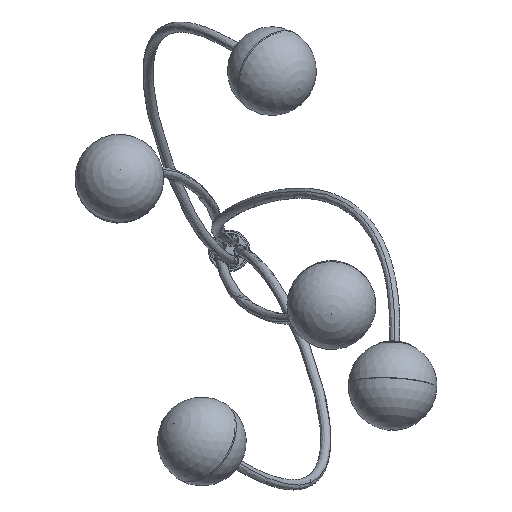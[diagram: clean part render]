
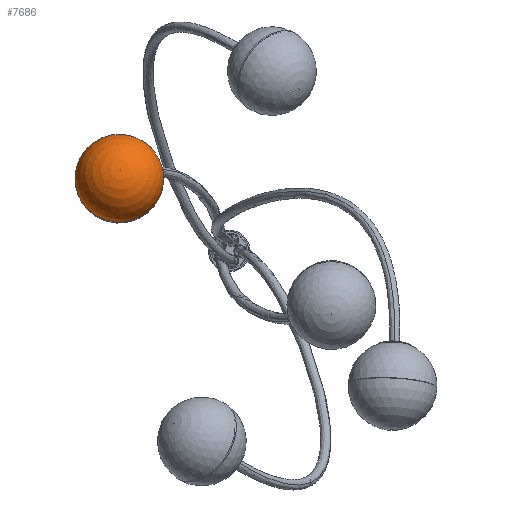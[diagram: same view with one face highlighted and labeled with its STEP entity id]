
A CAD part, front view. The second image highlights one B-rep face of the part: STEP entity #7686.
In plain terms, the highlighted spherical face has radius 75 mm.
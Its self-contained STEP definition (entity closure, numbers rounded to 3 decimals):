
#189 = DIRECTION ( 'NONE',  ( 0., -1., 0. ) ) ;
#914 = CIRCLE ( 'NONE', #10041, 75. ) ;
#1150 = DIRECTION ( 'NONE',  ( 1., 0., 0. ) ) ;
#1210 = AXIS2_PLACEMENT_3D ( 'NONE', #8333, #7038, #13943 ) ;
#1629 = ORIENTED_EDGE ( 'NONE', *, *, #8653, .T. ) ;
#2333 = VERTEX_POINT ( 'NONE', #12435 ) ;
#5437 = ORIENTED_EDGE ( 'NONE', *, *, #7841, .F. ) ;
#6082 = DIRECTION ( 'NONE',  ( 1., 0., 0. ) ) ;
#6707 = CARTESIAN_POINT ( 'NONE',  ( 0., 0., -75. ) ) ;
#7038 = DIRECTION ( 'NONE',  ( 0., 1., 0. ) ) ;
#7686 = ADVANCED_FACE ( 'NONE', ( #8855 ), #15829, .T. ) ;
#7841 = EDGE_CURVE ( 'NONE', #2333, #16009, #914, .T. ) ;
#8333 = CARTESIAN_POINT ( 'NONE',  ( 0., 0., 0. ) ) ;
#8653 = EDGE_CURVE ( 'NONE', #2333, #16009, #10937, .T. ) ;
#8855 = FACE_OUTER_BOUND ( 'NONE', #10164, .T. ) ;
#8951 = CARTESIAN_POINT ( 'NONE',  ( 0., 0., 0. ) ) ;
#10041 = AXIS2_PLACEMENT_3D ( 'NONE', #17023, #14978, #1150 ) ;
#10164 = EDGE_LOOP ( 'NONE', ( #5437, #1629 ) ) ;
#10937 = CIRCLE ( 'NONE', #1210, 75. ) ;
#12435 = CARTESIAN_POINT ( 'NONE',  ( 0., 0., 75. ) ) ;
#13943 = DIRECTION ( 'NONE',  ( 0., 0., 1. ) ) ;
#14978 = DIRECTION ( 'NONE',  ( 0., -1., 0. ) ) ;
#15829 = SPHERICAL_SURFACE ( 'NONE', #17668, 75. ) ;
#16009 = VERTEX_POINT ( 'NONE', #6707 ) ;
#17023 = CARTESIAN_POINT ( 'NONE',  ( 0., 0., 0. ) ) ;
#17668 = AXIS2_PLACEMENT_3D ( 'NONE', #8951, #189, #6082 ) ;
